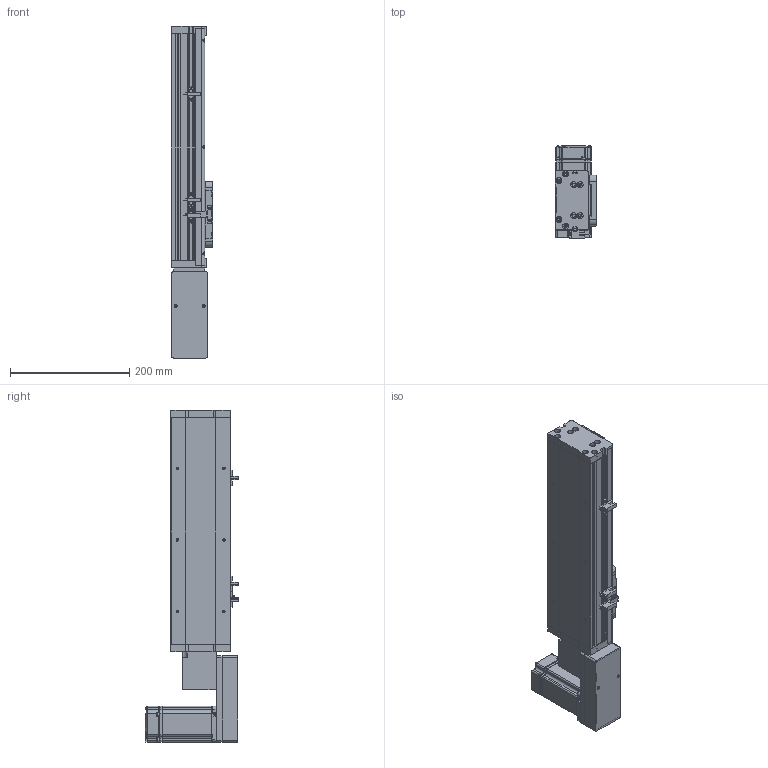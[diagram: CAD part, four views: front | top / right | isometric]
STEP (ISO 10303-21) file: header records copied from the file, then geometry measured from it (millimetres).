
FILE_DESCRIPTION (( 'STEP AP214' ), '1' );
FILE_NAME ('KSD100B-S200-MRB-CR .STEP', '2019-09-07T08:52:09', ( '微软用户' ), ( '微软中国' ), 'SwSTEP 2.0', 'SolidWorks 2014', '' );
FILE_SCHEMA (( 'AUTOMOTIVE_DESIGN' ));
Length unit declared in the file: millimetre
Products named in the file (15): 100宽底板全封闭200行程同步带; 悵誘欶奻狟殏; KSD100B-S200-MRB-CR ; 100宽马达安装板连板上下折丝杆同步带; U倰嫖萇EEㄜSX672; 感应片100宽全封闭; MHMD042G1CA_2_03; 100宽马达安装板同步带右; 100遵鎮湛假蚾啣蜊; 100宽端板同步带全封闭; 100宽滚珠螺姆安装板1防护罩; 100宽滚珠螺姆安装板1; 100遵裔啣揤啣; 100遵裔啣200俴最; 100宽侧板200行程同步带
Assembly tree (18 placements, depth 2):
  KSD100B-S200-MRB-CR 
    100宽底板全封闭200行程同步带
    100宽侧板200行程同步带  x2
    100遵裔啣200俴最
    100遵裔啣揤啣  x2
    100宽滚珠螺姆安装板1
    100宽滚珠螺姆安装板1防护罩
    100宽端板同步带全封闭
    100遵鎮湛假蚾啣蜊
    100宽马达安装板同步带右
    感应片100宽全封闭
    U倰嫖萇EEㄜSX672  x3
    100宽马达安装板连板上下折丝杆同步带
    悵誘欶奻狟殏
    MHMD042G1CA_2_03
Bounding box: 70 x 156.2 x 557 mm (x, y, z)
Volume: 1078901.9 mm3; surface area: 509755 mm2
Topology: 17 solids, 18 shells, 1591 faces, 4422 edges, 2873 vertices
Faces by surface type: plane 727, cylinder 693, cone 151, bspline 20
Entity records: 56074 total; most frequent: CARTESIAN_POINT 8374, DIRECTION 7658, ORIENTED_EDGE 7116, EDGE_CURVE 3630, AXIS2_PLACEMENT_3D 2727, VERTEX_POINT 2411, LINE 2204, VECTOR 2204
